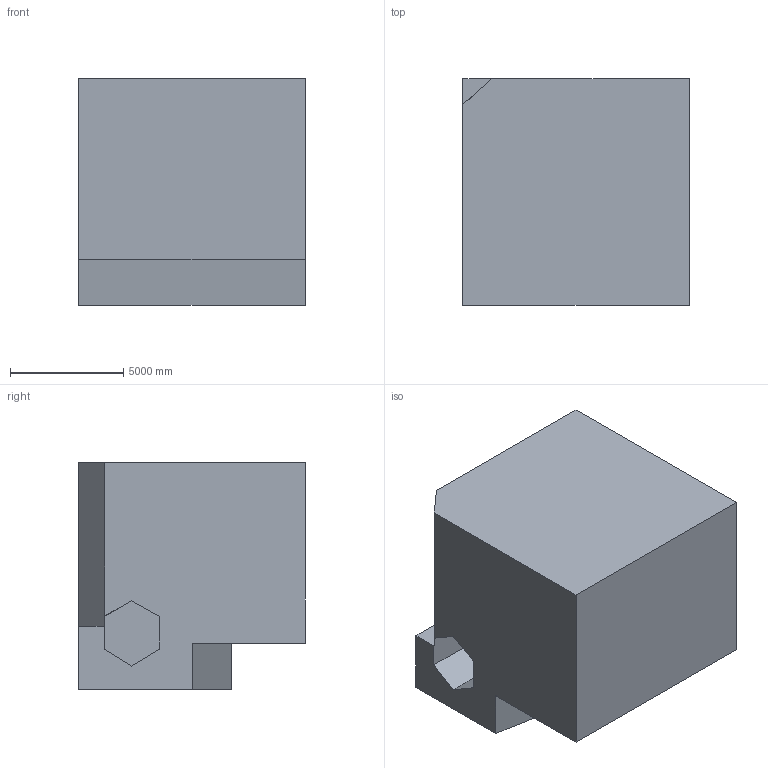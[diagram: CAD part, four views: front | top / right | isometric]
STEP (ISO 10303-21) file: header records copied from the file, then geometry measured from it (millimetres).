
FILE_DESCRIPTION (( 'STEP AP203' ), '1' );
FILE_NAME ('204.STEP', '2022-07-28T13:53:45', ( 'user' ), ( '' ), 'SwSTEP 2.0', 'SolidWorks 2021', '' );
FILE_SCHEMA (( 'CONFIG_CONTROL_DESIGN' ));
Length unit declared in the file: centimetre
Products named in the file (1): 204
Bounding box: 10000 x 10000 x 10000 mm (x, y, z)
Volume: 897846693768.2 mm3; surface area: 598574969 mm2
Topology: 1 solids, 1 shells, 17 faces, 45 edges, 30 vertices
Faces by surface type: plane 17
Entity records: 596 total; most frequent: CARTESIAN_POINT 93, ORIENTED_EDGE 90, DIRECTION 81, LINE 45, EDGE_CURVE 45, VECTOR 45, VERTEX_POINT 30, AXIS2_PLACEMENT_3D 18
